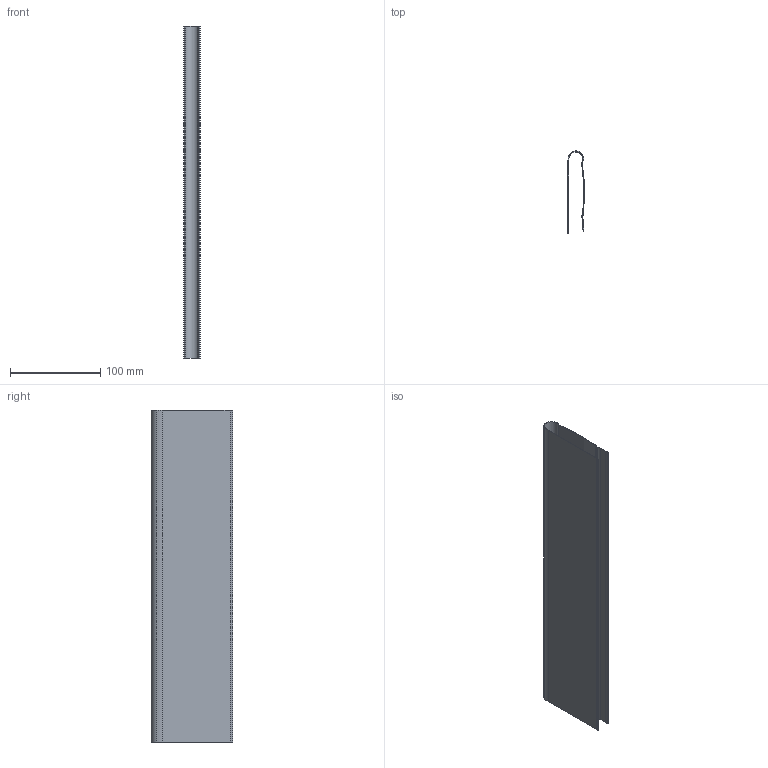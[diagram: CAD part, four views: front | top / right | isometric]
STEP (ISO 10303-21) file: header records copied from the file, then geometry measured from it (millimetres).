
FILE_DESCRIPTION (( 'STEP AP214' ), '1' );
FILE_NAME ('_Duowing NL400.step', '2010-07-14T13:30:46', ( 'grass' ), ( '' ), 'SwSTEP 2.0', 'SolidWorks 2010', '' );
FILE_SCHEMA (( 'AUTOMOTIVE_DESIGN' ));
Length unit declared in the file: millimetre
Products named in the file (1): _Duowing NL400
Bounding box: 18.64 x 90.48 x 368 mm (x, y, z)
Volume: 52103 mm3; surface area: 139776.4 mm2
Topology: 1 solids, 1 shells, 54 faces, 108 edges, 56 vertices
Faces by surface type: plane 36, cylinder 18
Entity records: 1378 total; most frequent: DIRECTION 254, CARTESIAN_POINT 219, ORIENTED_EDGE 216, EDGE_CURVE 108, AXIS2_PLACEMENT_3D 91, VECTOR 72, LINE 72, VERTEX_POINT 56
